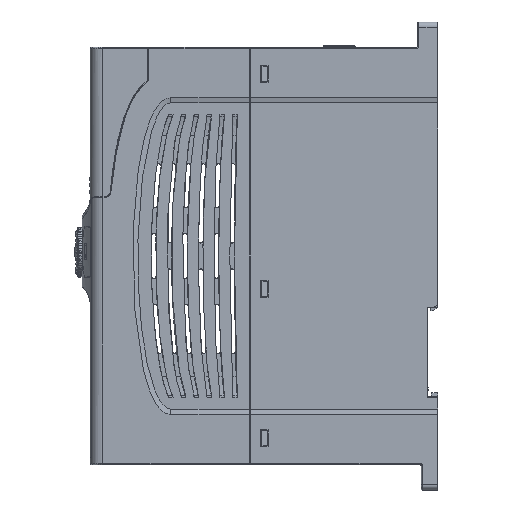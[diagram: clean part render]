
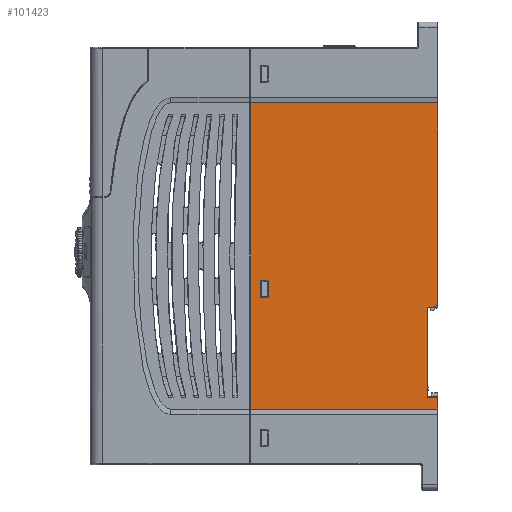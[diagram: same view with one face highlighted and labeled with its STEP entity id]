
A CAD part, left-side view. The second image highlights one B-rep face of the part: STEP entity #101423.
In plain terms, the highlighted planar face has unit normal (-1, 0, 0).
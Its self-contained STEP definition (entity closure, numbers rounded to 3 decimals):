
#65651=DIRECTION('',(0.,0.,1.));
#65652=VECTOR('',#65651,4.6);
#65653=CARTESIAN_POINT('',(-39.5,-4.,-60.5));
#65654=LINE('',#65653,#65652);
#66249=DIRECTION('',(0.,0.894,-0.447));
#66250=VECTOR('',#66249,2.236);
#66251=CARTESIAN_POINT('',(-39.5,-4.,-19.5));
#66252=LINE('',#66251,#66250);
#66253=DIRECTION('',(0.,1.,0.));
#66254=VECTOR('',#66253,2.);
#66255=CARTESIAN_POINT('',(-39.5,-2.,-20.5));
#66256=LINE('',#66255,#66254);
#66257=DIRECTION('',(0.,-1.,0.));
#66258=VECTOR('',#66257,4.);
#66259=CARTESIAN_POINT('',(-39.5,0.,-55.9));
#66260=LINE('',#66259,#66258);
#66261=DIRECTION('',(0.,1.,0.));
#66262=VECTOR('',#66261,74.);
#66263=CARTESIAN_POINT('',(-39.5,-4.,-60.5));
#66264=LINE('',#66263,#66262);
#66265=DIRECTION('',(0.,1.,0.));
#66266=VECTOR('',#66265,3.);
#66267=CARTESIAN_POINT('',(-39.5,63.,-9.75));
#66268=LINE('',#66267,#66266);
#66269=DIRECTION('',(0.,0.,-1.));
#66270=VECTOR('',#66269,6.5);
#66271=CARTESIAN_POINT('',(-39.5,66.,-9.75));
#66272=LINE('',#66271,#66270);
#66273=DIRECTION('',(0.,-1.,0.));
#66274=VECTOR('',#66273,3.);
#66275=CARTESIAN_POINT('',(-39.5,66.,-16.25));
#66276=LINE('',#66275,#66274);
#66277=DIRECTION('',(0.,0.,1.));
#66278=VECTOR('',#66277,6.5);
#66279=CARTESIAN_POINT('',(-39.5,63.,-16.25));
#66280=LINE('',#66279,#66278);
#66395=DIRECTION('',(0.,0.,1.));
#66396=VECTOR('',#66395,80.);
#66397=CARTESIAN_POINT('',(-39.5,-4.,-19.5));
#66398=LINE('',#66397,#66396);
#67164=DIRECTION('',(0.,1.,0.));
#67165=VECTOR('',#67164,74.);
#67166=CARTESIAN_POINT('',(-39.5,-4.,60.5));
#67167=LINE('',#67166,#67165);
#67248=DIRECTION('',(0.,0.,-1.));
#67249=VECTOR('',#67248,121.);
#67250=CARTESIAN_POINT('',(-39.5,70.,60.5));
#67251=LINE('',#67250,#67249);
#76513=DIRECTION('',(0.,0.,1.));
#76514=VECTOR('',#76513,35.4);
#76515=CARTESIAN_POINT('',(-39.5,0.,-55.9));
#76516=LINE('',#76515,#76514);
#93174=CARTESIAN_POINT('',(-39.5,-4.,-60.5));
#93175=VERTEX_POINT('',#93174);
#93176=CARTESIAN_POINT('',(-39.5,-4.,-55.9));
#93177=VERTEX_POINT('',#93176);
#93450=CARTESIAN_POINT('',(-39.5,0.,-55.9));
#93451=VERTEX_POINT('',#93450);
#93452=CARTESIAN_POINT('',(-39.5,-4.,-19.5));
#93453=CARTESIAN_POINT('',(-39.5,-2.,-20.5));
#93454=VERTEX_POINT('',#93452);
#93455=VERTEX_POINT('',#93453);
#93456=CARTESIAN_POINT('',(-39.5,0.,-20.5));
#93457=VERTEX_POINT('',#93456);
#93458=CARTESIAN_POINT('',(-39.5,70.,-60.5));
#93459=VERTEX_POINT('',#93458);
#93460=CARTESIAN_POINT('',(-39.5,70.,60.5));
#93461=VERTEX_POINT('',#93460);
#93462=CARTESIAN_POINT('',(-39.5,-4.,60.5));
#93463=VERTEX_POINT('',#93462);
#93464=CARTESIAN_POINT('',(-39.5,63.,-9.75));
#93465=CARTESIAN_POINT('',(-39.5,66.,-9.75));
#93466=VERTEX_POINT('',#93464);
#93467=VERTEX_POINT('',#93465);
#93468=CARTESIAN_POINT('',(-39.5,66.,-16.25));
#93469=VERTEX_POINT('',#93468);
#93470=CARTESIAN_POINT('',(-39.5,63.,-16.25));
#93471=VERTEX_POINT('',#93470);
#101390=CARTESIAN_POINT('',(-39.5,33.,0.));
#101391=DIRECTION('',(1.,0.,0.));
#101392=DIRECTION('',(0.,0.,1.));
#101393=AXIS2_PLACEMENT_3D('',#101390,#101391,#101392);
#101394=PLANE('',#101393);
#101396=ORIENTED_EDGE('',*,*,#101395,.T.);
#101398=ORIENTED_EDGE('',*,*,#101397,.T.);
#101400=ORIENTED_EDGE('',*,*,#101399,.F.);
#101401=ORIENTED_EDGE('',*,*,#101382,.T.);
#101402=ORIENTED_EDGE('',*,*,#100753,.F.);
#101404=ORIENTED_EDGE('',*,*,#101403,.T.);
#101406=ORIENTED_EDGE('',*,*,#101405,.F.);
#101408=ORIENTED_EDGE('',*,*,#101407,.F.);
#101410=ORIENTED_EDGE('',*,*,#101409,.F.);
#101411=EDGE_LOOP('',(#101396,#101398,#101400,#101401,#101402,#101404,#101406,
#101408,#101410));
#101412=FACE_OUTER_BOUND('',#101411,.F.);
#101414=ORIENTED_EDGE('',*,*,#101413,.T.);
#101416=ORIENTED_EDGE('',*,*,#101415,.T.);
#101418=ORIENTED_EDGE('',*,*,#101417,.T.);
#101420=ORIENTED_EDGE('',*,*,#101419,.T.);
#101421=EDGE_LOOP('',(#101414,#101416,#101418,#101420));
#101422=FACE_BOUND('',#101421,.F.);
#100753=EDGE_CURVE('',#93175,#93177,#65654,.T.);
#101382=EDGE_CURVE('',#93451,#93177,#66260,.T.);
#101395=EDGE_CURVE('',#93454,#93455,#66252,.T.);
#101397=EDGE_CURVE('',#93455,#93457,#66256,.T.);
#101399=EDGE_CURVE('',#93451,#93457,#76516,.T.);
#101403=EDGE_CURVE('',#93175,#93459,#66264,.T.);
#101405=EDGE_CURVE('',#93461,#93459,#67251,.T.);
#101407=EDGE_CURVE('',#93463,#93461,#67167,.T.);
#101409=EDGE_CURVE('',#93454,#93463,#66398,.T.);
#101413=EDGE_CURVE('',#93466,#93467,#66268,.T.);
#101415=EDGE_CURVE('',#93467,#93469,#66272,.T.);
#101417=EDGE_CURVE('',#93469,#93471,#66276,.T.);
#101419=EDGE_CURVE('',#93471,#93466,#66280,.T.);
#101423=ADVANCED_FACE('',(#101412,#101422),#101394,.F.);
